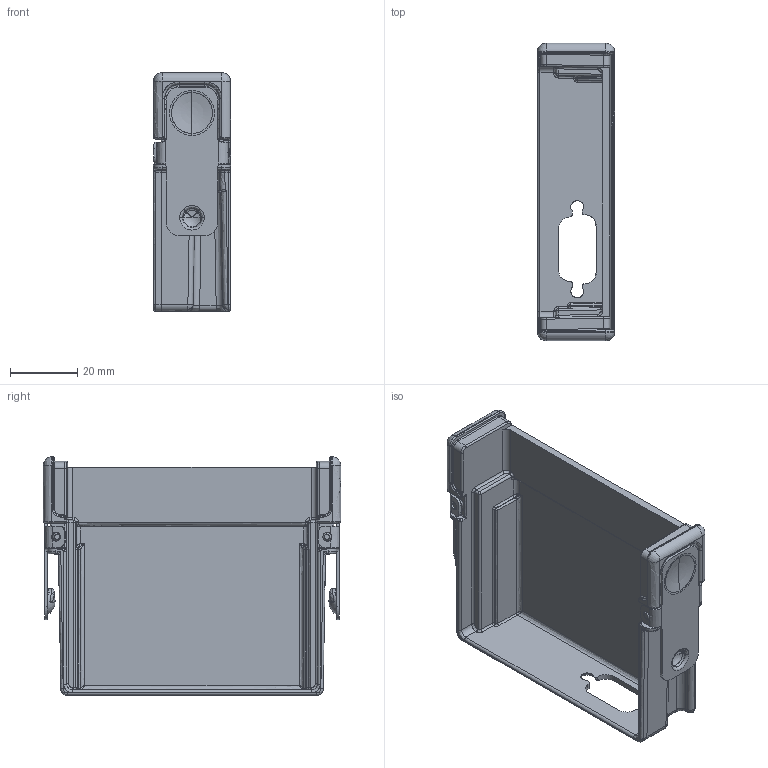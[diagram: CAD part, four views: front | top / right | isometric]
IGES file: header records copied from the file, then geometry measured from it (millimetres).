
Start section:  PTC IGES file: cu_crio_mod_enclosure_only.igs
Global section: file name: cu_crio_mod_enclosure_only.igs; native system: Creo Parametric by PTC Inc.; preprocessor: 2015380; author: dkendric; organization: Unknown; date: 20160608.163557; units: inch
Bounding box: 22.86 x 88.11 x 70.69 mm (x, y, z)
Surface area: 24387.8 mm2 (no closed solid volume)
Topology: 0 solids, 0 shells, 906 faces, 4352 edges, 4324 vertices
Faces by surface type: bspline 463, revolution 437, extrusion 6
